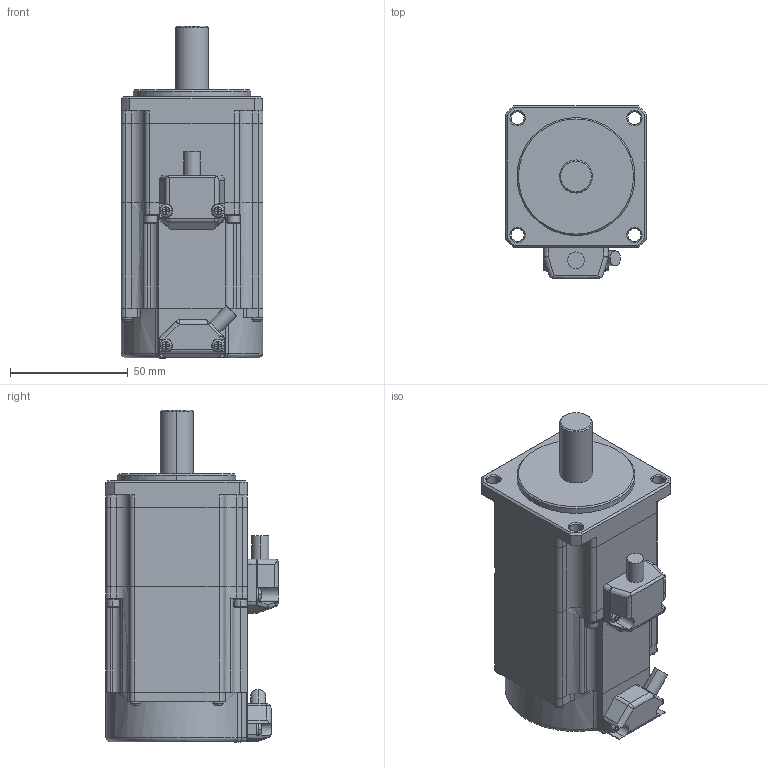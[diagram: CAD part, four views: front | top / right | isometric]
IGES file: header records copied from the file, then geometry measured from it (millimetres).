
Start section: Elysium IGES Interface
Global section: file name: 79H\\nas63\design\04MC研\saka\3DCAD\TBL-i2カタログまとめ\IGSデータ\TS4607_BK有.igs; native system: Creo Elements/Direct Modeling 17.0F  20-Aug-2012; preprocessor: Creo Element/Direct IGES_3D V2.2; author: Unknown; organization: Unknown; date: 20161222.162142; units: millimetre
Bounding box: 60 x 73 x 140.7 mm (x, y, z)
Volume: 366642 mm3; surface area: 35813.6 mm2
Topology: 1 solids, 1 shells, 675 faces, 1542 edges, 864 vertices
Faces by surface type: bspline 675
